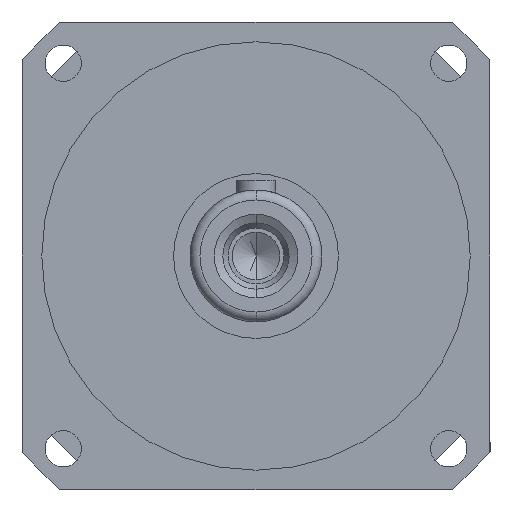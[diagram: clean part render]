
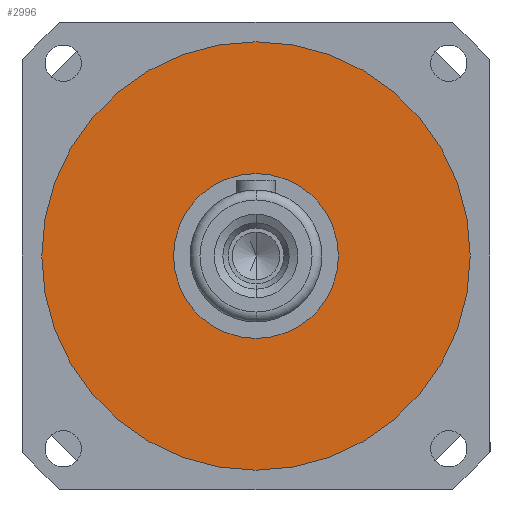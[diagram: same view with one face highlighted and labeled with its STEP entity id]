
A CAD part, front view. The second image highlights one B-rep face of the part: STEP entity #2996.
In plain terms, the highlighted planar face has unit normal (0, -1, 0).
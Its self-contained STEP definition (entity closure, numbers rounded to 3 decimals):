
#65 = EDGE_CURVE ( 'NONE', #1921, #1297, #5245, .T. ) ;
#128 = FACE_BOUND ( 'NONE', #3167, .T. ) ;
#277 = CARTESIAN_POINT ( 'NONE',  ( 0., 0., -25. ) ) ;
#489 = FACE_OUTER_BOUND ( 'NONE', #1472, .T. ) ;
#871 = CARTESIAN_POINT ( 'NONE',  ( 0., 0., 0. ) ) ;
#883 = VERTEX_POINT ( 'NONE', #277 ) ;
#896 = CIRCLE ( 'NONE', #5839, 25. ) ;
#953 = DIRECTION ( 'NONE',  ( 0., -1., 0. ) ) ;
#1297 = VERTEX_POINT ( 'NONE', #5173 ) ;
#1325 = CARTESIAN_POINT ( 'NONE',  ( 0., 0., 0. ) ) ;
#1472 = EDGE_LOOP ( 'NONE', ( #2795, #5142 ) ) ;
#1759 = ORIENTED_EDGE ( 'NONE', *, *, #5149, .F. ) ;
#1811 = ORIENTED_EDGE ( 'NONE', *, *, #7164, .F. ) ;
#1894 = DIRECTION ( 'NONE',  ( 0., 0., 1. ) ) ;
#1921 = VERTEX_POINT ( 'NONE', #5860 ) ;
#2239 = CARTESIAN_POINT ( 'NONE',  ( 0., 0., 0. ) ) ;
#2513 = CARTESIAN_POINT ( 'NONE',  ( 0., 0., 0. ) ) ;
#2633 = DIRECTION ( 'NONE',  ( 0., 0., 1. ) ) ;
#2795 = ORIENTED_EDGE ( 'NONE', *, *, #65, .T. ) ;
#2828 = DIRECTION ( 'NONE',  ( 0., 0., 1. ) ) ;
#2996 = ADVANCED_FACE ( 'NONE', ( #489, #128 ), #4327, .F. ) ;
#3086 = DIRECTION ( 'NONE',  ( 0., 0., -1. ) ) ;
#3167 = EDGE_LOOP ( 'NONE', ( #1811, #1759 ) ) ;
#3772 = VERTEX_POINT ( 'NONE', #4591 ) ;
#4327 = PLANE ( 'NONE',  #5823 ) ;
#4409 = CARTESIAN_POINT ( 'NONE',  ( 0., 0., 0. ) ) ;
#4591 = CARTESIAN_POINT ( 'NONE',  ( 0., 0., 25. ) ) ;
#4624 = EDGE_CURVE ( 'NONE', #1297, #1921, #7402, .T. ) ;
#4729 = CIRCLE ( 'NONE', #6202, 25. ) ;
#4964 = DIRECTION ( 'NONE',  ( 0., 0., -1. ) ) ;
#5071 = AXIS2_PLACEMENT_3D ( 'NONE', #4409, #953, #4964 ) ;
#5142 = ORIENTED_EDGE ( 'NONE', *, *, #4624, .T. ) ;
#5149 = EDGE_CURVE ( 'NONE', #883, #3772, #896, .T. ) ;
#5173 = CARTESIAN_POINT ( 'NONE',  ( 0., 0., 65. ) ) ;
#5245 = CIRCLE ( 'NONE', #5071, 65. ) ;
#5345 = DIRECTION ( 'NONE',  ( 0., -1., 0. ) ) ;
#5823 = AXIS2_PLACEMENT_3D ( 'NONE', #871, #6051, #2633 ) ;
#5839 = AXIS2_PLACEMENT_3D ( 'NONE', #1325, #5345, #1894 ) ;
#5860 = CARTESIAN_POINT ( 'NONE',  ( 0., 0., -65. ) ) ;
#6051 = DIRECTION ( 'NONE',  ( 0., 1., 0. ) ) ;
#6120 = AXIS2_PLACEMENT_3D ( 'NONE', #2513, #6523, #3086 ) ;
#6202 = AXIS2_PLACEMENT_3D ( 'NONE', #2239, #6249, #2828 ) ;
#6249 = DIRECTION ( 'NONE',  ( 0., -1., 0. ) ) ;
#6523 = DIRECTION ( 'NONE',  ( 0., -1., 0. ) ) ;
#7164 = EDGE_CURVE ( 'NONE', #3772, #883, #4729, .T. ) ;
#7402 = CIRCLE ( 'NONE', #6120, 65. ) ;
